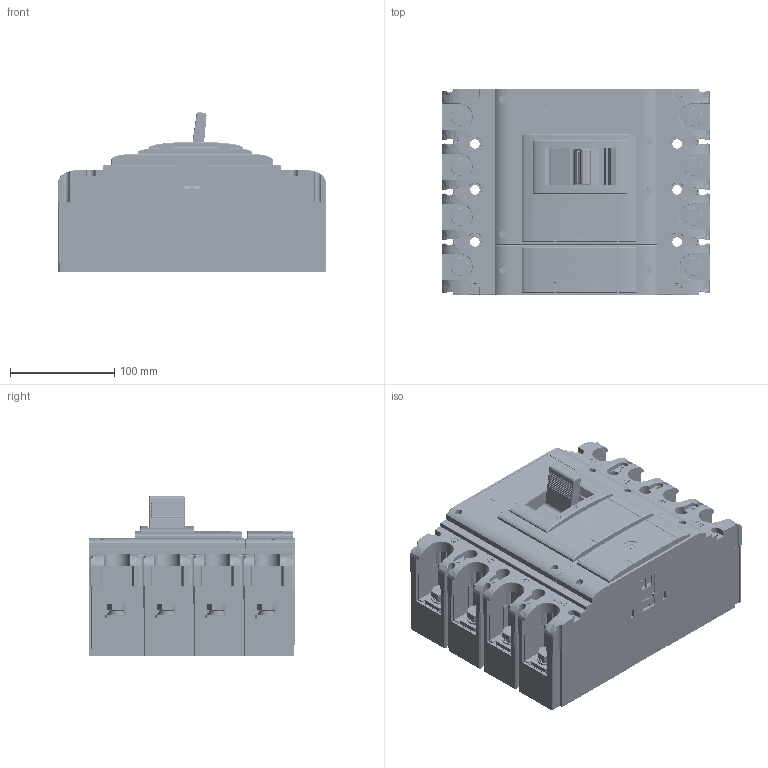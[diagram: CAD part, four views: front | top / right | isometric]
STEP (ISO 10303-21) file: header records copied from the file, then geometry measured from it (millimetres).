
FILE_DESCRIPTION((''),'2;1');
FILE_NAME('TGM1N-630-4P_ASM_ASM','2019-03-15T',('Administrator'),(''),'PRO/ENGINEER BY PARAMETRIC TECHNOLOGY CORPORATION, 2017170','PRO/ENGINEER BY PARAMETRIC TECHNOLOGY CORPORATION, 2017170','');
FILE_SCHEMA(('CONFIG_CONTROL_DESIGN'));
Products named in the file (49): 8TZD-024-1036_5_1; LUOMU_1_1; 5TZD-024-1047_ASM_3_ASM_1_ASM; 8TZD-232-1002_2_1; 8TZD-206-1024_41_1; 5TZD-235-1005_ASM_1_ASM_1_ASM; 6TZD-760-1010-1-2_ASM_21_ASM_1_ASM; 5TZD-253-1014_ASM_5_ASM_1; 8TZD-550-1057_1_1; 5TZD-552-1030_ASM_5_ASM_1_ASM; 8TZD-742-1082_1_1; 8TZD-742-1089_2_1; 8TZD-742-1090_2_1; GB_T9074_4-M4X18_6_1; GB_T9074_4-M4X14_6_1; GB_T9074_4-M4X8_6_1; GB_T9074_4-M5X45_6_1; GB_T9074_4-M4X20_6_1; GB_T6170-M10_2_1; 8TZD-253-1030_2_1; 5TZD-505-1011_ASM_9_ASM_1; 8TZD-742-1116_6_1; GB_T6170-M3_2_1; GB71-M3X12_2_1; 5TZD-599-1047-1-5_AF0_ASM_9_ASM; 5TZD-599-1053_AF0_ASM_7_ASM_1_ASM; 5TZD-599-1047-1-5_AF1_ASM_9_ASM; 5TZD-599-1053_AF1_ASM_7_ASM_1_ASM; 5TZD-599-1047-1-5_AF2_ASM_9_ASM; 5TZD-599-1053_AF2_ASM_7_ASM_1_ASM; 5TZD-599-1047-1-5_AF3_ASM_9_ASM; 5TZD-599-1053_AF3_ASM_7_ASM_1_ASM; 8TZD-742-1177_4_1; 8TZD-742-1080_4_1; 8TZD_315_3117_28_6_1; 8TZD_315_3118_8_4_1; MANIFOLD_SOLID_BREP_96267_4_1; 8TZD_315_3113_1_ASM_4_ASM_1_ASM; 5TZD_315_3057_ASM_1_ASM_4_ASM_1_ASM; 5TZD_315_3057_ASM_ASM_4_ASM_1_ASM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
Assembly tree (130 placements, depth 7):
  TGM1N-630-4P_ASM_ASM
    TGM1N-400-4P_ASM_1_ASM
      2TZD-259-1030_ASM_15_ASM_1_ASM
        5TZD-024-1047_ASM_3_ASM_1_ASM
          8TZD-024-1036_5_1
          LUOMU_1_1  x12
        6TZD-760-1010-1-2_ASM_21_ASM_1_ASM
          5TZD-235-1005_ASM_1_ASM_1_ASM
            8TZD-232-1002_2_1
            8TZD-206-1024_41_1
        5TZD-253-1014_ASM_5_ASM_1
        5TZD-552-1030_ASM_5_ASM_1_ASM  x4
          8TZD-550-1057_1_1
        8TZD-742-1082_1_1  x4
        8TZD-742-1089_2_1  x2
        8TZD-742-1090_2_1  x2
        GB_T9074_4-M4X18_6_1  x4
        GB_T9074_4-M4X14_6_1  x8
        GB_T9074_4-M4X8_6_1  x4
        GB_T9074_4-M5X45_6_1  x4
        GB_T9074_4-M4X20_6_1  x8
        GB_T6170-M10_2_1  x8
        8TZD-253-1030_2_1
        5TZD-505-1011_ASM_9_ASM_1
        8TZD-742-1116_6_1
        GB_T6170-M3_2_1
        GB71-M3X12_2_1
        5TZD-599-1053_AF0_ASM_7_ASM_1_ASM
          5TZD-599-1047-1-5_AF0_ASM_9_ASM
        5TZD-599-1053_AF1_ASM_7_ASM_1_ASM
          5TZD-599-1047-1-5_AF1_ASM_9_ASM
        5TZD-599-1053_AF2_ASM_7_ASM_1_ASM
          5TZD-599-1047-1-5_AF2_ASM_9_ASM
        5TZD-599-1053_AF3_ASM_7_ASM_1_ASM
          5TZD-599-1047-1-5_AF3_ASM_9_ASM
        8TZD-742-1177_4_1  x4
        8TZD-742-1080_4_1  x4
        5TZD_315_3057_ASM_ASM_4_ASM_1_ASM
          5TZD_315_3057_ASM_1_ASM_4_ASM_1_ASM
            8TZD_315_3117_28_6_1
            8TZD_315_3118_8_4_1
            8TZD_315_3113_1_ASM_4_ASM_1_ASM
              MANIFOLD_SOLID_BREP_96267_4_1
      8TZD_253_6003_10
      8TZD_552_6012_4  x4
      8TZD_585_1483_3  x4
      GB_T848-10_4_1  x8
      GB_T93-10_4_1  x8
      GB_T5781-M10X35_4_1  x8
Bounding box: 257 x 197.9 x 153.16 mm (x, y, z)
Volume: 4510522.8 mm3; surface area: 889258 mm2
Topology: 111 solids, 130 shells, 6750 faces, 18121 edges, 11756 vertices
Faces by surface type: plane 4350, cylinder 1616, cone 333, bspline 180, sphere 148, torus 103, extrusion 20
Entity records: 193428 total; most frequent: CARTESIAN_POINT 54951, ORIENTED_EDGE 29234, DIRECTION 27987, EDGE_CURVE 14617, VECTOR 10505, LINE 10485, VERTEX_POINT 9533, AXIS2_PLACEMENT_3D 8741
